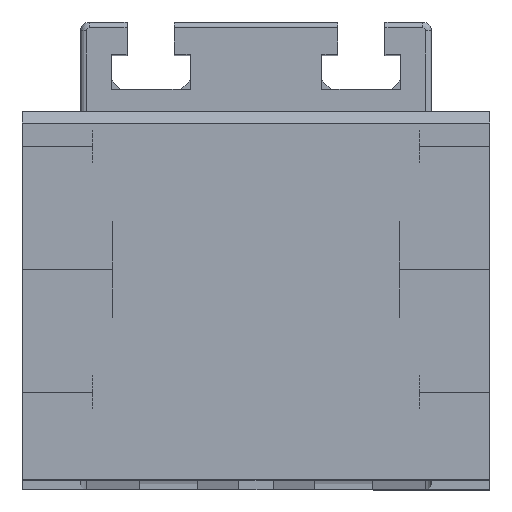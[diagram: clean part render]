
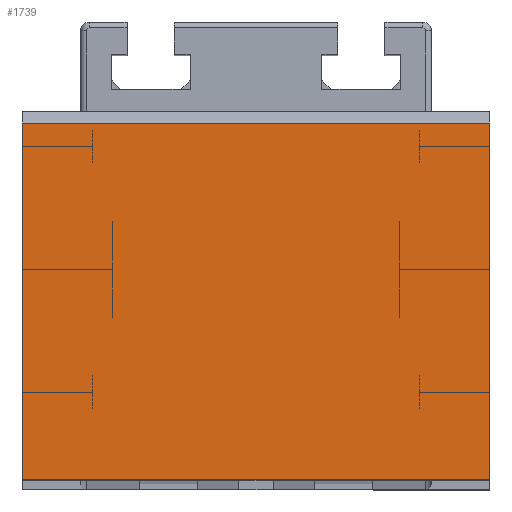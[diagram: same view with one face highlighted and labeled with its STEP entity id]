
A CAD part, top view. The second image highlights one B-rep face of the part: STEP entity #1739.
In plain terms, the highlighted planar face has unit normal (0, 0, 1).
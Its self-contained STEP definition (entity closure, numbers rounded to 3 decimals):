
#289 = LINE ( 'NONE', #5587, #6041 ) ;
#571 = EDGE_LOOP ( 'NONE', ( #3048, #2622, #5350, #1443 ) ) ;
#598 = LINE ( 'NONE', #4963, #6160 ) ;
#1102 = PLANE ( 'NONE',  #2356 ) ;
#1443 = ORIENTED_EDGE ( 'NONE', *, *, #6250, .F. ) ;
#1552 = VERTEX_POINT ( 'NONE', #4955 ) ;
#1739 = ADVANCED_FACE ( 'NONE', ( #4808 ), #1102, .F. ) ;
#1795 = DIRECTION ( 'NONE',  ( -1., 0., 0. ) ) ;
#2172 = CARTESIAN_POINT ( 'NONE',  ( 80., 0., 29.5 ) ) ;
#2213 = EDGE_CURVE ( 'NONE', #2329, #2716, #598, .T. ) ;
#2329 = VERTEX_POINT ( 'NONE', #4809 ) ;
#2356 = AXIS2_PLACEMENT_3D ( 'NONE', #2172, #5845, #3218 ) ;
#2503 = CARTESIAN_POINT ( 'NONE',  ( 80., 61., 29.5 ) ) ;
#2622 = ORIENTED_EDGE ( 'NONE', *, *, #4336, .T. ) ;
#2716 = VERTEX_POINT ( 'NONE', #4863 ) ;
#3048 = ORIENTED_EDGE ( 'NONE', *, *, #2213, .F. ) ;
#3218 = DIRECTION ( 'NONE',  ( 0., 1., 0. ) ) ;
#3338 = CARTESIAN_POINT ( 'NONE',  ( 0., 0., 29.5 ) ) ;
#4336 = EDGE_CURVE ( 'NONE', #2329, #1552, #5193, .T. ) ;
#4682 = DIRECTION ( 'NONE',  ( -1., 0., 0. ) ) ;
#4808 = FACE_OUTER_BOUND ( 'NONE', #571, .T. ) ;
#4809 = CARTESIAN_POINT ( 'NONE',  ( 80., 61., 29.5 ) ) ;
#4863 = CARTESIAN_POINT ( 'NONE',  ( 80., 0., 29.5 ) ) ;
#4955 = CARTESIAN_POINT ( 'NONE',  ( 0., 61., 29.5 ) ) ;
#4963 = CARTESIAN_POINT ( 'NONE',  ( 80., 0., 29.5 ) ) ;
#5103 = EDGE_CURVE ( 'NONE', #1552, #5413, #289, .T. ) ;
#5193 = LINE ( 'NONE', #2503, #5856 ) ;
#5350 = ORIENTED_EDGE ( 'NONE', *, *, #5103, .T. ) ;
#5413 = VERTEX_POINT ( 'NONE', #3338 ) ;
#5587 = CARTESIAN_POINT ( 'NONE',  ( 0., 0., 29.5 ) ) ;
#5655 = DIRECTION ( 'NONE',  ( 0., -1., 0. ) ) ;
#5845 = DIRECTION ( 'NONE',  ( 0., 0., -1. ) ) ;
#5856 = VECTOR ( 'NONE', #4682, 1000. ) ;
#6020 = DIRECTION ( 'NONE',  ( 0., -1., 0. ) ) ;
#6041 = VECTOR ( 'NONE', #5655, 1000. ) ;
#6160 = VECTOR ( 'NONE', #6020, 1000. ) ;
#6250 = EDGE_CURVE ( 'NONE', #2716, #5413, #6603, .T. ) ;
#6603 = LINE ( 'NONE', #6632, #6892 ) ;
#6632 = CARTESIAN_POINT ( 'NONE',  ( 80., 0., 29.5 ) ) ;
#6892 = VECTOR ( 'NONE', #1795, 1000. ) ;
